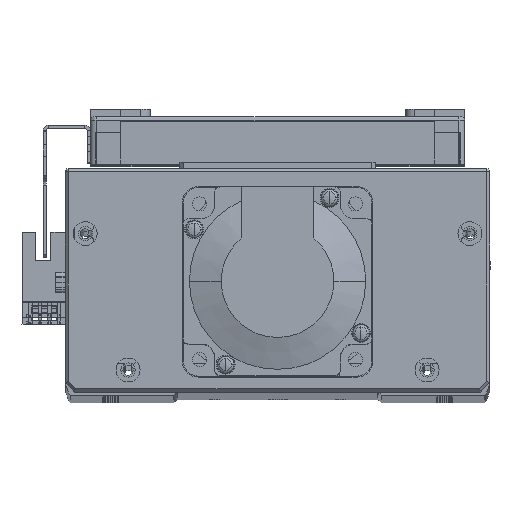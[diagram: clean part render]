
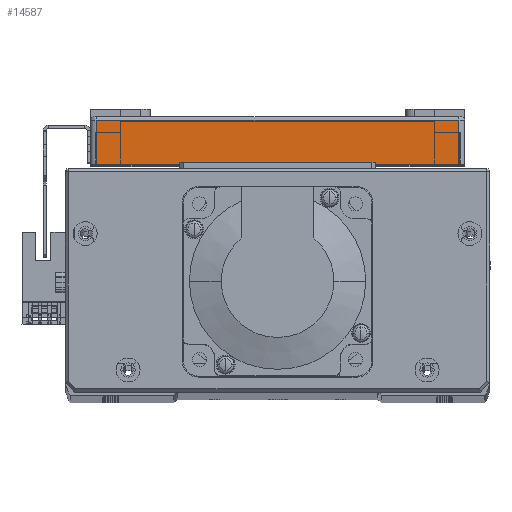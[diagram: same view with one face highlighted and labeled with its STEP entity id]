
A CAD part, top view. The second image highlights one B-rep face of the part: STEP entity #14587.
In plain terms, the highlighted planar face has unit normal (0, 0, 1) as drawn and (-1, 0, 0) by its records, which use the part's own axes.
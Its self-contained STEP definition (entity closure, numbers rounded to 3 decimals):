
#14300 = AXIS2_PLACEMENT_3D ( 'NONE', #39789, #39790, #39822 ) ;
#14587 = ADVANCED_FACE ( 'NONE', ( #27377 ), #39788, .F. ) ;
#19527 = CARTESIAN_POINT ( 'NONE',  ( -95., 14., 57.5 ) ) ;
#19649 = CARTESIAN_POINT ( 'NONE',  ( -95., 14., -57.5 ) ) ;
#19684 = CARTESIAN_POINT ( 'NONE',  ( -95., 0., 57.5 ) ) ;
#19697 = CARTESIAN_POINT ( 'NONE',  ( -95., 0., -57.5 ) ) ;
#22425 = LINE ( 'NONE', #39270, #22451 ) ;
#22451 = VECTOR ( 'NONE', #39284, 1000. ) ;
#22478 = LINE ( 'NONE', #39315, #22509 ) ;
#22509 = VECTOR ( 'NONE', #39350, 1000. ) ;
#22532 = VECTOR ( 'NONE', #39438, 1000. ) ;
#22535 = VECTOR ( 'NONE', #39454, 1000. ) ;
#22561 = LINE ( 'NONE', #39437, #22532 ) ;
#22568 = LINE ( 'NONE', #39422, #22535 ) ;
#27377 = FACE_OUTER_BOUND ( 'NONE', #41727, .T. ) ;
#31618 = ORIENTED_EDGE ( 'NONE', *, *, #48750, .T. ) ;
#31624 = ORIENTED_EDGE ( 'NONE', *, *, #48714, .T. ) ;
#31640 = ORIENTED_EDGE ( 'NONE', *, *, #48757, .T. ) ;
#31672 = ORIENTED_EDGE ( 'NONE', *, *, #48683, .T. ) ;
#39270 = CARTESIAN_POINT ( 'NONE',  ( -95., 0., -59.5 ) ) ;
#39284 = DIRECTION ( 'NONE',  ( 0., 0., 1. ) ) ;
#39315 = CARTESIAN_POINT ( 'NONE',  ( -95., 14., -57.5 ) ) ;
#39350 = DIRECTION ( 'NONE',  ( 0., 0., -1. ) ) ;
#39422 = CARTESIAN_POINT ( 'NONE',  ( -95., 15., -57.5 ) ) ;
#39437 = CARTESIAN_POINT ( 'NONE',  ( -95., 15., 57.5 ) ) ;
#39438 = DIRECTION ( 'NONE',  ( 0., 1., 0. ) ) ;
#39454 = DIRECTION ( 'NONE',  ( 0., -1., 0. ) ) ;
#39788 = PLANE ( 'NONE',  #14300 ) ;
#39789 = CARTESIAN_POINT ( 'NONE',  ( -95., 15., -59.5 ) ) ;
#39790 = DIRECTION ( 'NONE',  ( 1., 0., 0. ) ) ;
#39822 = DIRECTION ( 'NONE',  ( 0., 0., -1. ) ) ;
#41727 = EDGE_LOOP ( 'NONE', ( #31640, #31624, #31618, #31672 ) ) ;
#48683 = EDGE_CURVE ( 'NONE', #50870, #50854, #22425, .T. ) ;
#48714 = EDGE_CURVE ( 'NONE', #50723, #50891, #22478, .T. ) ;
#48750 = EDGE_CURVE ( 'NONE', #50891, #50870, #22568, .T. ) ;
#48757 = EDGE_CURVE ( 'NONE', #50854, #50723, #22561, .T. ) ;
#50723 = VERTEX_POINT ( 'NONE', #19527 ) ;
#50854 = VERTEX_POINT ( 'NONE', #19684 ) ;
#50870 = VERTEX_POINT ( 'NONE', #19697 ) ;
#50891 = VERTEX_POINT ( 'NONE', #19649 ) ;
